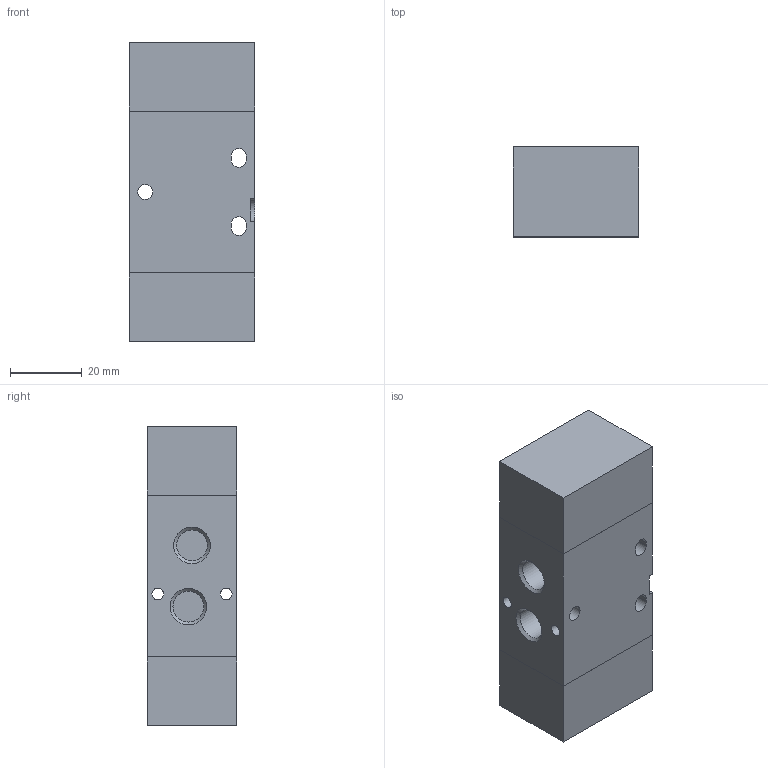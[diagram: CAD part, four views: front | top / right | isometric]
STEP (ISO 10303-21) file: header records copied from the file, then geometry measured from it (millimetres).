
FILE_DESCRIPTION((''),'2;1');
FILE_NAME('I:\Area Tecnica\Disegni\VARIE-3D\Componenti\TECNOECO\3D\3 VIE\T488_32_11_12.stp','2008-10-20T11:11:37',('rivolro1'),(''),'Autodesk Inventor 2009','Autodesk Inventor 2009','');
FILE_SCHEMA(('AUTOMOTIVE_DESIGN { 1 0 10303 214 1 1 1 1 }'));
Length unit declared in the file: millimetre
Products named in the file (1): T488_32_11_12
Bounding box: 35 x 25 x 83 mm (x, y, z)
Volume: 69237.2 mm3; surface area: 14054.6 mm2
Topology: 1 solids, 1 shells, 50 faces, 120 edges, 79 vertices
Faces by surface type: plane 26, bspline 17, cylinder 7
Full cylindrical faces by diameter (mm): 4.2 x1
Entity records: 1591 total; most frequent: CARTESIAN_POINT 452, ORIENTED_EDGE 210, DIRECTION 206, EDGE_CURVE 105, EDGE_LOOP 80, VERTEX_POINT 77, VECTOR 72, LINE 72
